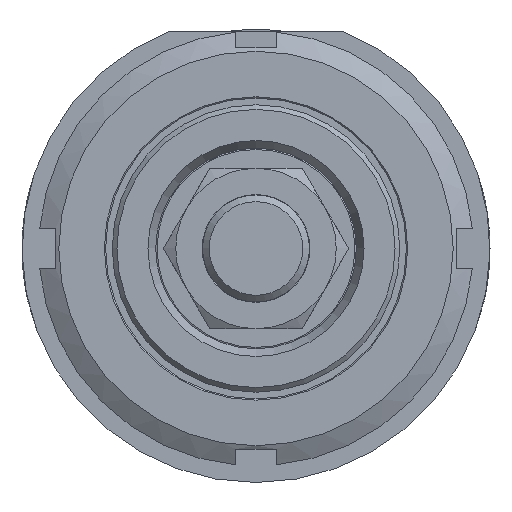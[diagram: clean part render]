
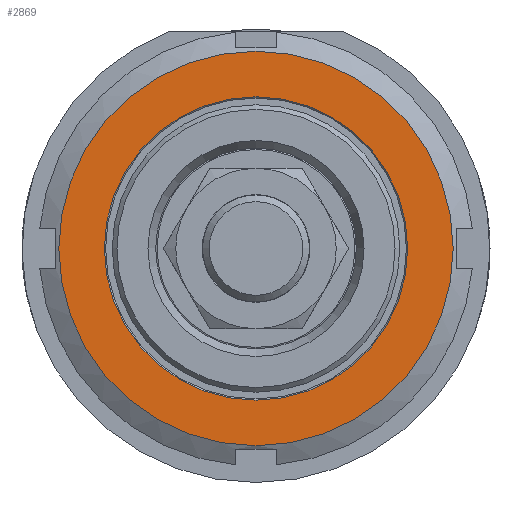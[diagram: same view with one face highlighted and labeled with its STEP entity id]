
A CAD part, front view. The second image highlights one B-rep face of the part: STEP entity #2869.
In plain terms, the highlighted planar face has unit normal (0, -1, 0) as drawn and (0, 0, 1) by its records, which use the part's own axes.
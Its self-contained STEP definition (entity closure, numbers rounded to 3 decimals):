
#608=ORIENTED_EDGE('',*,*,#894,.T.);
#609=ORIENTED_EDGE('',*,*,#895,.F.);
#894=EDGE_CURVE('',#1086,#1086,#1233,.T.);
#895=EDGE_CURVE('',#1087,#1087,#1234,.T.);
#1086=VERTEX_POINT('',#4346);
#1087=VERTEX_POINT('',#4348);
#1233=CIRCLE('',#3143,22.688);
#1234=CIRCLE('',#3144,29.5);
#1460=EDGE_LOOP('',(#608));
#1461=EDGE_LOOP('',(#609));
#1694=FACE_BOUND('',#1460,.T.);
#1695=FACE_BOUND('',#1461,.T.);
#1769=PLANE('',#3142);
#2869=ADVANCED_FACE('',(#1694,#1695),#1769,.F.);
#3142=AXIS2_PLACEMENT_3D('',#4344,#3667,#3668);
#3143=AXIS2_PLACEMENT_3D('',#4345,#3669,#3670);
#3144=AXIS2_PLACEMENT_3D('',#4347,#3671,#3672);
#3667=DIRECTION('',(0.,0.,-1.));
#3668=DIRECTION('',(-1.,0.,0.));
#3669=DIRECTION('',(0.,0.,-1.));
#3670=DIRECTION('',(-1.,0.,0.));
#3671=DIRECTION('',(0.,0.,-1.));
#3672=DIRECTION('',(-1.,0.,0.));
#4344=CARTESIAN_POINT('',(0.,0.,10.));
#4345=CARTESIAN_POINT('',(0.,0.,10.));
#4346=CARTESIAN_POINT('',(-22.688,0.,10.));
#4347=CARTESIAN_POINT('',(0.,0.,10.));
#4348=CARTESIAN_POINT('',(-29.5,0.,10.));
